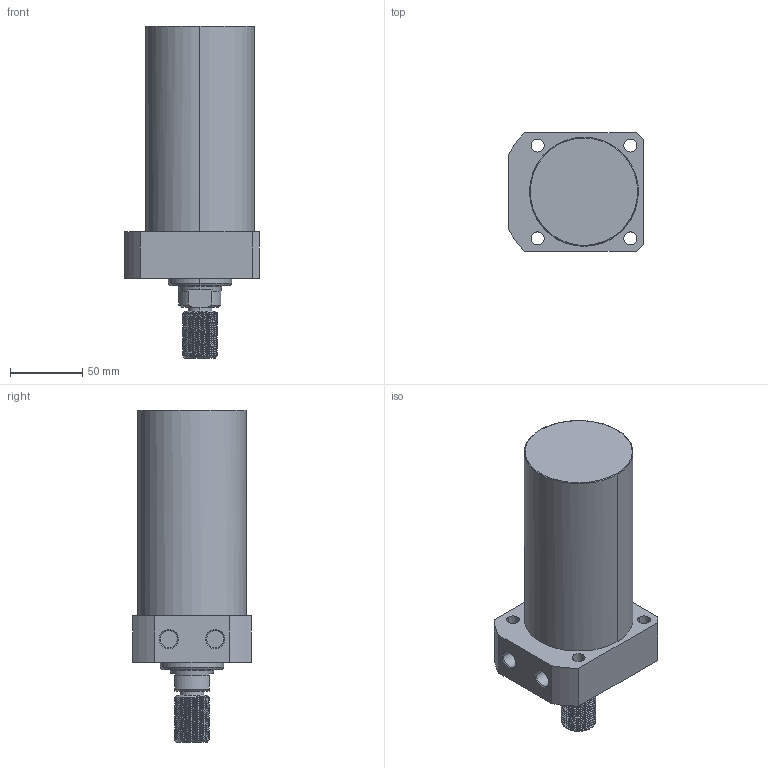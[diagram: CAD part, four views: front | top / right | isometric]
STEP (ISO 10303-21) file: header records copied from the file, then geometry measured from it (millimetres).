
FILE_DESCRIPTION((' '),'2;1');
FILE_NAME( 'TLLR-075CT-105.STEP.stp', '2025-10-24T16:35:12', (' '), ('--- Datakit www.datakit.com---'), ' Datakit CrossCadWare V2024.1 Dec 21 2023', 'Mastercam 2025', ' ');
FILE_SCHEMA(('AUTOMOTIVE_DESIGN { 1 0 10303 214 1 1 1 1 }'));
Length unit declared in the file: millimetre
Products named in the file (1): TLLR-075CT-105
Bounding box: 93 x 82 x 229 mm (x, y, z)
Volume: 884300.3 mm3; surface area: 69604 mm2
Topology: 1 solids, 1 shells, 109 faces, 398 edges, 300 vertices
Faces by surface type: cylinder 69, plane 21, cone 15, bspline 2, torus 2
Entity records: 13055 total; most frequent: CARTESIAN_POINT 9677, ORIENTED_EDGE 796, DIRECTION 549, EDGE_CURVE 398, VERTEX_POINT 300, AXIS2_PLACEMENT_3D 222, B_SPLINE_CURVE_WITH_KNOTS 179, EDGE_LOOP 126
